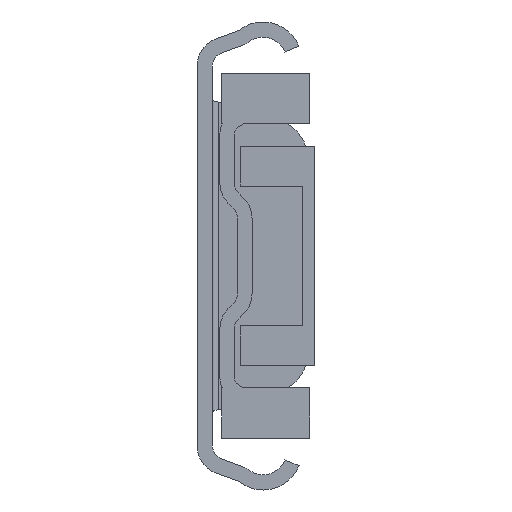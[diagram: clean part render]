
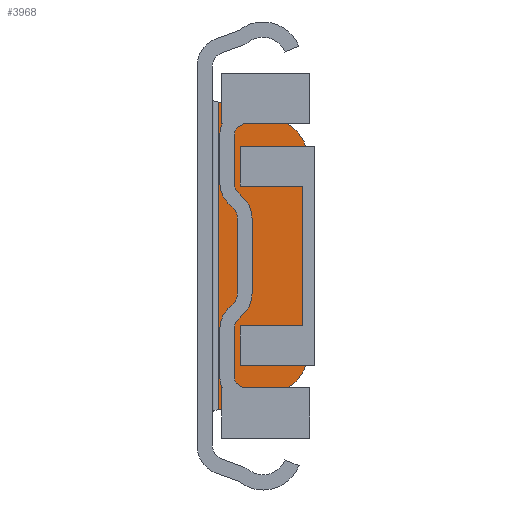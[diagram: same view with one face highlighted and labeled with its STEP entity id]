
A CAD part, front view. The second image highlights one B-rep face of the part: STEP entity #3968.
In plain terms, the highlighted planar face has unit normal (0, -1, 0).
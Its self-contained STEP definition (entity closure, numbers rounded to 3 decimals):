
#338=LINE('',#6826,#722);
#339=LINE('',#6831,#723);
#340=LINE('',#6835,#724);
#341=LINE('',#6837,#725);
#722=VECTOR('',#5654,1000.);
#723=VECTOR('',#5657,1000.);
#724=VECTOR('',#5660,1000.);
#725=VECTOR('',#5661,1000.);
#890=PLANE('',#4709);
#1746=ORIENTED_EDGE('',*,*,#2470,.F.);
#1747=ORIENTED_EDGE('',*,*,#2471,.F.);
#1748=ORIENTED_EDGE('',*,*,#2472,.F.);
#1749=ORIENTED_EDGE('',*,*,#2473,.F.);
#1750=ORIENTED_EDGE('',*,*,#2474,.F.);
#1751=ORIENTED_EDGE('',*,*,#2475,.F.);
#2470=EDGE_CURVE('',#2908,#2909,#338,.T.);
#2471=EDGE_CURVE('',#2910,#2908,#3136,.F.);
#2472=EDGE_CURVE('',#2911,#2910,#339,.T.);
#2473=EDGE_CURVE('',#2912,#2911,#3137,.F.);
#2474=EDGE_CURVE('',#2913,#2912,#340,.T.);
#2475=EDGE_CURVE('',#2909,#2913,#341,.T.);
#2908=VERTEX_POINT('',#6827);
#2909=VERTEX_POINT('',#6828);
#2910=VERTEX_POINT('',#6830);
#2911=VERTEX_POINT('',#6832);
#2912=VERTEX_POINT('',#6834);
#2913=VERTEX_POINT('',#6836);
#3136=CIRCLE('',#4710,8.);
#3137=CIRCLE('',#4711,8.);
#3380=EDGE_LOOP('',(#1746,#1747,#1748,#1749,#1750,#1751));
#3650=FACE_BOUND('',#3380,.T.);
#3968=ADVANCED_FACE('',(#3650),#890,.T.);
#4709=AXIS2_PLACEMENT_3D('',#6825,#5652,#5653);
#4710=AXIS2_PLACEMENT_3D('',#6829,#5655,#5656);
#4711=AXIS2_PLACEMENT_3D('',#6833,#5658,#5659);
#5652=DIRECTION('',(0.,-1.,0.));
#5653=DIRECTION('',(0.,0.,-1.));
#5654=DIRECTION('',(-0.966,0.,-0.259));
#5655=DIRECTION('',(0.,-1.,0.));
#5656=DIRECTION('',(0.,0.,-1.));
#5657=DIRECTION('',(0.,0.,-1.));
#5658=DIRECTION('',(0.,-1.,0.));
#5659=DIRECTION('',(0.,0.,-1.));
#5660=DIRECTION('',(0.966,0.,-0.259));
#5661=DIRECTION('',(0.,0.,1.));
#6825=CARTESIAN_POINT('',(12.9,1267.5,14.965));
#6826=CARTESIAN_POINT('',(22.316,1267.5,-20.174));
#6827=CARTESIAN_POINT('',(12.471,1267.5,-22.812));
#6828=CARTESIAN_POINT('',(3.5,1267.5,-25.216));
#6829=CARTESIAN_POINT('',(10.4,1267.5,-15.085));
#6830=CARTESIAN_POINT('',(18.4,1267.5,-15.085));
#6831=CARTESIAN_POINT('',(18.4,1267.5,14.965));
#6832=CARTESIAN_POINT('',(18.4,1267.5,15.085));
#6833=CARTESIAN_POINT('',(10.4,1267.5,15.085));
#6834=CARTESIAN_POINT('',(12.471,1267.5,22.812));
#6835=CARTESIAN_POINT('',(14.833,1267.5,22.179));
#6836=CARTESIAN_POINT('',(3.5,1267.5,25.216));
#6837=CARTESIAN_POINT('',(3.5,1267.5,-25.766));
